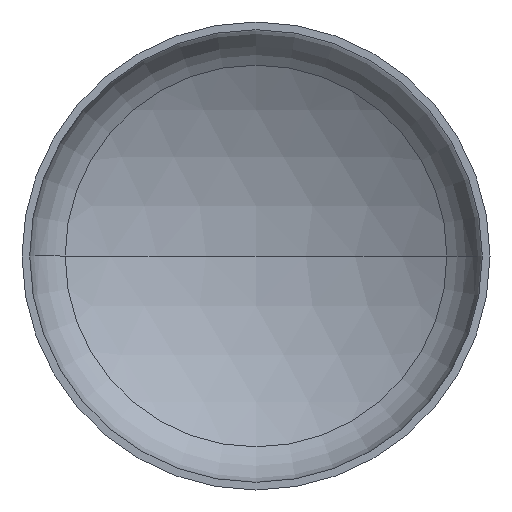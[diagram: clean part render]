
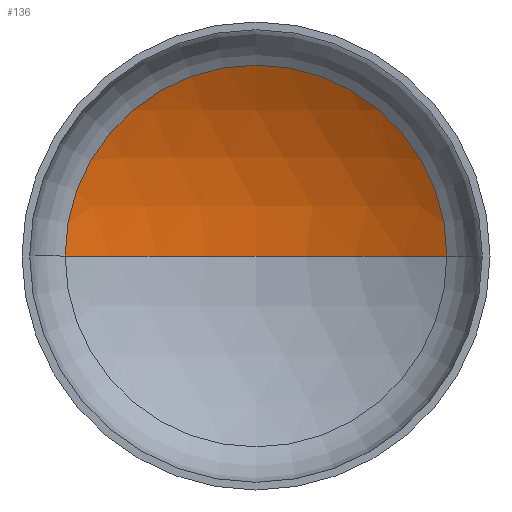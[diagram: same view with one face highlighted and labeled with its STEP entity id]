
A CAD part, front view. The second image highlights one B-rep face of the part: STEP entity #136.
In plain terms, the highlighted spherical face has radius 2720 mm.
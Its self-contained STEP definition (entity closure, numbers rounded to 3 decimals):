
#2 = AXIS2_PLACEMENT_3D ( 'NONE', #181, #327, #186 ) ;
#3 = AXIS2_PLACEMENT_3D ( 'NONE', #135, #325, #71 ) ;
#11 = CARTESIAN_POINT ( 'NONE',  ( 0., 951.65, 0. ) ) ;
#22 = AXIS2_PLACEMENT_3D ( 'NONE', #176, #349, #206 ) ;
#38 = AXIS2_PLACEMENT_3D ( 'NONE', #307, #282, #97 ) ;
#44 = CIRCLE ( 'NONE', #2, 2720. ) ;
#47 = EDGE_LOOP ( 'NONE', ( #91, #249, #183 ) ) ;
#71 = DIRECTION ( 'NONE',  ( 1., 0., 0. ) ) ;
#81 = EDGE_CURVE ( 'NONE', #130, #84, #129, .T. ) ;
#84 = VERTEX_POINT ( 'NONE', #289 ) ;
#91 = ORIENTED_EDGE ( 'NONE', *, *, #343, .F. ) ;
#97 = DIRECTION ( 'NONE',  ( 1., 0., 0. ) ) ;
#116 = SPHERICAL_SURFACE ( 'NONE', #22, 2720. ) ;
#123 = VERTEX_POINT ( 'NONE', #11 ) ;
#129 = CIRCLE ( 'NONE', #38, 1386.642 ) ;
#130 = VERTEX_POINT ( 'NONE', #278 ) ;
#135 = CARTESIAN_POINT ( 'NONE',  ( 0., -1768.35, 0. ) ) ;
#136 = ADVANCED_FACE ( 'NONE', ( #401 ), #116, .F. ) ;
#176 = CARTESIAN_POINT ( 'NONE',  ( 0., -1768.35, 0. ) ) ;
#181 = CARTESIAN_POINT ( 'NONE',  ( 0., -1768.35, 0. ) ) ;
#183 = ORIENTED_EDGE ( 'NONE', *, *, #81, .T. ) ;
#186 = DIRECTION ( 'NONE',  ( -1., 0., 0. ) ) ;
#206 = DIRECTION ( 'NONE',  ( -1., 0., 0. ) ) ;
#249 = ORIENTED_EDGE ( 'NONE', *, *, #337, .T. ) ;
#278 = CARTESIAN_POINT ( 'NONE',  ( 1386.642, 571.655, 0. ) ) ;
#282 = DIRECTION ( 'NONE',  ( 0., -1., 0. ) ) ;
#289 = CARTESIAN_POINT ( 'NONE',  ( -1386.642, 571.655, 0. ) ) ;
#305 = CIRCLE ( 'NONE', #3, 2720. ) ;
#307 = CARTESIAN_POINT ( 'NONE',  ( 0., 571.655, 0. ) ) ;
#325 = DIRECTION ( 'NONE',  ( 0., 0., 1. ) ) ;
#327 = DIRECTION ( 'NONE',  ( 0., 0., -1. ) ) ;
#337 = EDGE_CURVE ( 'NONE', #123, #130, #44, .T. ) ;
#343 = EDGE_CURVE ( 'NONE', #123, #84, #305, .T. ) ;
#349 = DIRECTION ( 'NONE',  ( 0., 0., -1. ) ) ;
#401 = FACE_OUTER_BOUND ( 'NONE', #47, .T. ) ;
